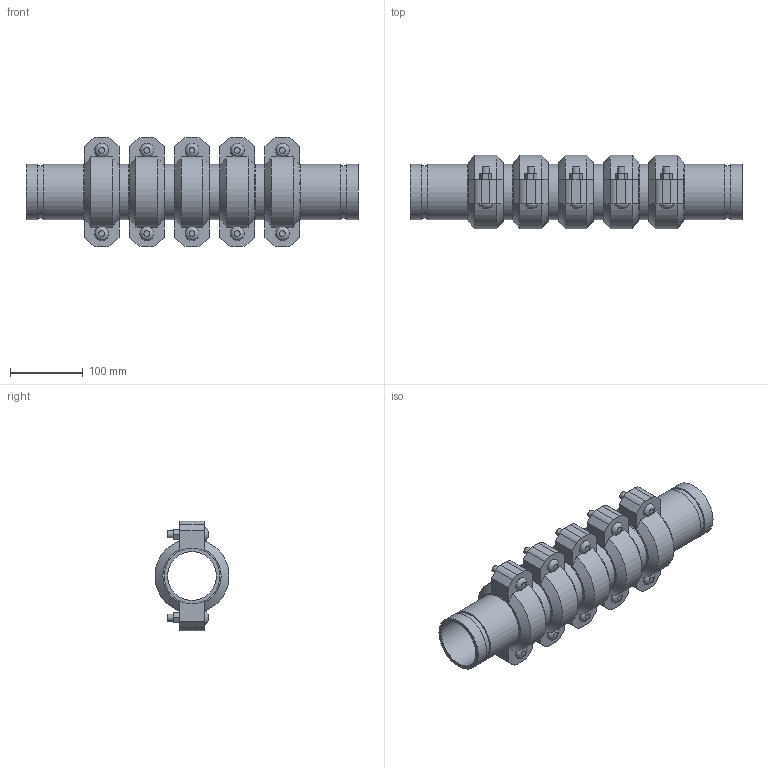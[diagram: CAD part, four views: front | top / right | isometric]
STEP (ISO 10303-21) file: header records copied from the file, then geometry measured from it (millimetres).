
FILE_DESCRIPTION(/* description */ ('VIC EXPANSION JOINT 5 COUPLINGS EXPANDED STYLE 155 (OGS)','CAx-IF Rec.Pracs.---Representation and Presentation of Product Manufacturing Information (PMI)---4.0---2014-10-13'),/* implementation_level */ '2;1');
FILE_NAME(/* name */ 'C:\Users\kkamble\AppData\Roaming\Autodesk\ApplicationPlugins\Victaulic.Temp\A557\Victaulic_IPS_Expansion Joint_Expanded_5 Couplings_Style 155 (OGS)_02.5 (76.1) (65).stp',/* time_stamp */ '2021-06-27T00:02:28+02:00',/* author */ ('kkamble'),/* organization */ ('Victaulic'),/* preprocessor_version */ 'ST-DEVELOPER v17.2',/* originating_system */ 'Autodesk Inventor 2019',/* authorisation */ '');
FILE_SCHEMA (('AP242_MANAGED_MODEL_BASED_3D_ENGINEERING_MIM_LF { 1 0 10303 442 1 1 4 }'));
Length unit declared in the file: inch
Products named in the file (4): 155-02.5 (76.1); Nipple-02.5 (76.1); Nipple-02.5 (76.1)_1; 075-02.5 (76.1)
Assembly tree (11 placements, depth 2):
  155-02.5 (76.1)
    Nipple-02.5 (76.1)  x2
    Nipple-02.5 (76.1)_1  x4
    075-02.5 (76.1)  x5
Bounding box: 455.42 x 101.25 x 149.86 mm (x, y, z)
Volume: 1541233.7 mm3; surface area: 450515.9 mm2
Topology: 11 solids, 21 shells, 357 faces, 865 edges, 604 vertices
Faces by surface type: plane 216, cylinder 111, cone 20, bspline 10
Full cylindrical faces by diameter (mm): 9.525 x20, 11.43 x10, 66.65 x6, 69.85 x5, 72.263 x12, 76.2 x28
Entity records: 2851 total; most frequent: CARTESIAN_POINT 527, DIRECTION 467, ORIENTED_EDGE 394, EDGE_CURVE 197, AXIS2_PLACEMENT_3D 186, VERTEX_POINT 140, EDGE_LOOP 105, LINE 95
